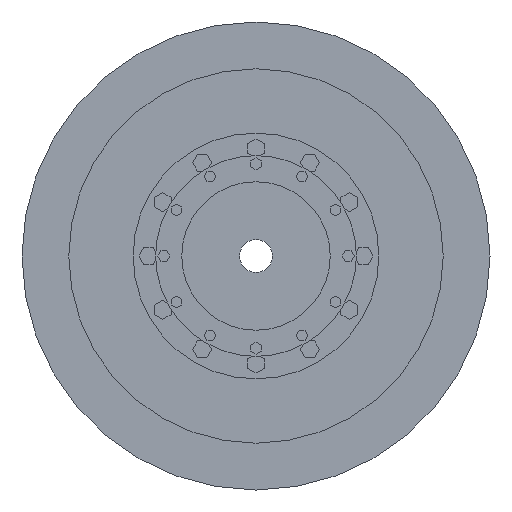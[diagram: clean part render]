
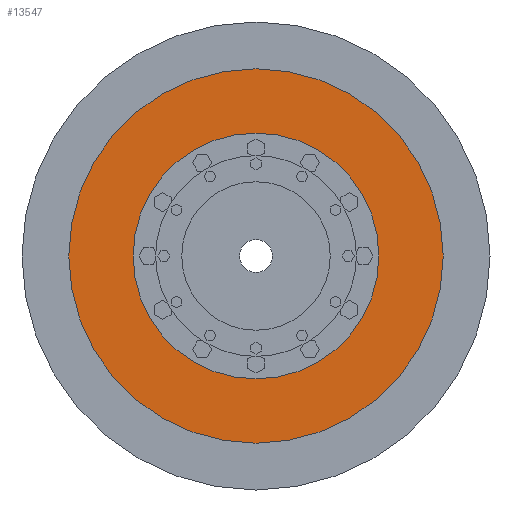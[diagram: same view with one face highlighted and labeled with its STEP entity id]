
A CAD part, left-side view. The second image highlights one B-rep face of the part: STEP entity #13547.
In plain terms, the highlighted planar face has unit normal (-1, 0, 0).
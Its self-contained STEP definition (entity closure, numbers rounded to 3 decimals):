
#13228=CARTESIAN_POINT('',(-8.,0.,0.));
#13229=DIRECTION('',(1.,0.,0.));
#13230=DIRECTION('',(0.,1.,0.));
#13231=AXIS2_PLACEMENT_3D('',#13228,#13229,#13230);
#13241=CARTESIAN_POINT('',(-8.,0.,0.));
#13242=DIRECTION('',(-1.,0.,0.));
#13243=DIRECTION('',(0.,1.,0.));
#13244=AXIS2_PLACEMENT_3D('',#13241,#13242,#13243);
#13330=CARTESIAN_POINT('',(-8.,0.,0.));
#13331=DIRECTION('',(-1.,0.,0.));
#13332=DIRECTION('',(0.,1.,0.));
#13333=AXIS2_PLACEMENT_3D('',#13330,#13331,#13332);
#13335=CARTESIAN_POINT('',(-8.,0.,0.));
#13336=DIRECTION('',(1.,0.,0.));
#13337=DIRECTION('',(0.,1.,0.));
#13338=AXIS2_PLACEMENT_3D('',#13335,#13336,#13337);
#13340=CARTESIAN_POINT('',(-8.,92.5,0.));
#13342=VERTEX_POINT('',#13340);
#13349=CARTESIAN_POINT('',(-8.,182.8,0.));
#13351=VERTEX_POINT('',#13349);
#13352=CARTESIAN_POINT('',(-8.,-92.5,0.));
#13354=VERTEX_POINT('',#13352);
#13361=CARTESIAN_POINT('',(-8.,-182.8,0.));
#13363=VERTEX_POINT('',#13361);
#13534=CARTESIAN_POINT('',(-8.,0.,0.));
#13535=DIRECTION('',(1.,0.,0.));
#13536=DIRECTION('',(0.,-1.,0.));
#13537=AXIS2_PLACEMENT_3D('',#13534,#13535,#13536);
#13538=PLANE('',#13537);
#13539=ORIENTED_EDGE('',*,*,#13527,.F.);
#13540=ORIENTED_EDGE('',*,*,#13516,.T.);
#13541=EDGE_LOOP('',(#13539,#13540));
#13542=FACE_OUTER_BOUND('',#13541,.F.);
#13543=ORIENTED_EDGE('',*,*,#13379,.F.);
#13544=ORIENTED_EDGE('',*,*,#13397,.T.);
#13545=EDGE_LOOP('',(#13543,#13544));
#13546=FACE_BOUND('',#13545,.F.);
#13547=ADVANCED_FACE('',(#13542,#13546),#13538,.F.);
#13232=CIRCLE('',#13231,92.5);
#13245=CIRCLE('',#13244,92.5);
#13334=CIRCLE('',#13333,182.8);
#13339=CIRCLE('',#13338,182.8);
#13379=EDGE_CURVE('',#13342,#13354,#13232,.T.);
#13397=EDGE_CURVE('',#13342,#13354,#13245,.T.);
#13516=EDGE_CURVE('',#13351,#13363,#13339,.T.);
#13527=EDGE_CURVE('',#13351,#13363,#13334,.T.);
